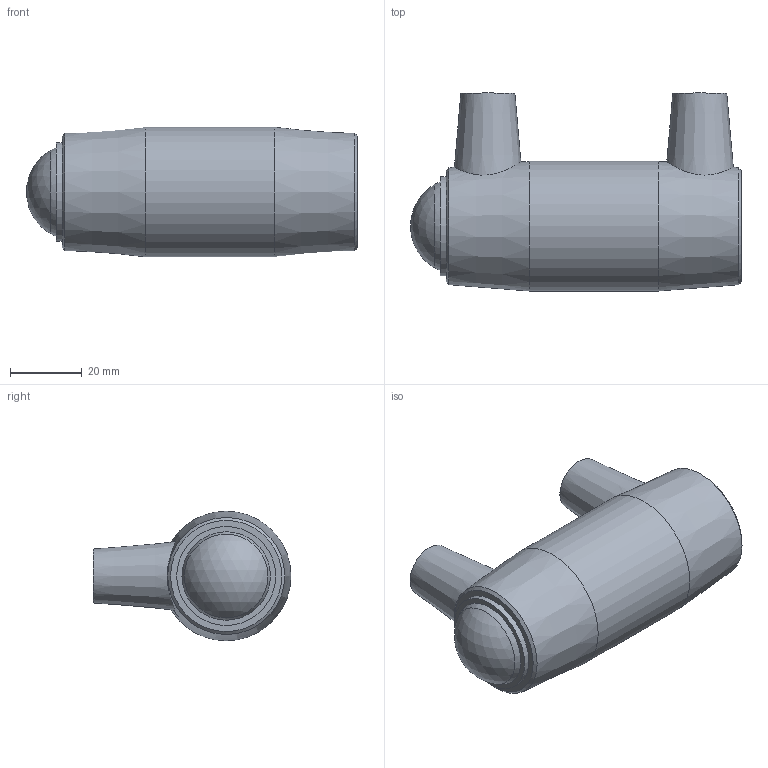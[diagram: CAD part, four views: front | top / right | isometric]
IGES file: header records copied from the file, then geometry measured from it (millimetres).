
Global section: file name: 491204025.ipt; native system: Autodesk Inventor 2015; preprocessor: unknown; author: KIM; date: 20171106.093748; units: millimetre
Bounding box: 91.91 x 55 x 36 mm (x, y, z)
Volume: 54081.8 mm3; surface area: 20356.5 mm2
Topology: 1 solids, 1 shells, 37 faces, 82 edges, 58 vertices
Faces by surface type: plane 13, revolution 13, cone 6, cylinder 4, sphere 1
Full cylindrical faces by diameter (mm): 4 x2, 27.5 x1, 36 x1
